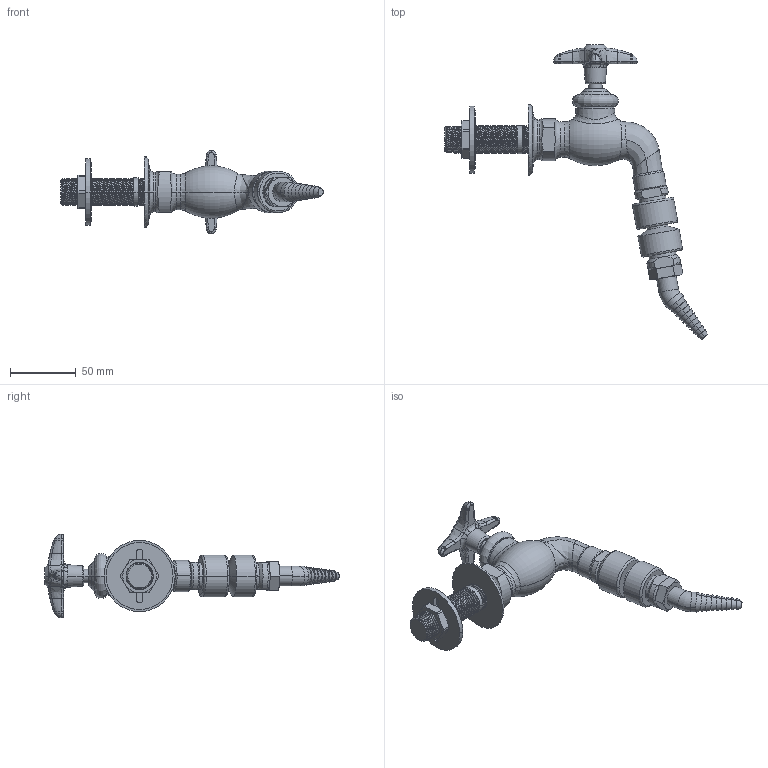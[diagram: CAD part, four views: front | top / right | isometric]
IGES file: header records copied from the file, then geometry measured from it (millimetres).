
Start section:  PTC IGES file: LWV4-A54.igs
Global section: file name: LWV4-A54.igs; native system: Creo Parametric by PTC Inc.; preprocessor: 2014500; author: usch_engrender; organization: Unknown; date: 20150915.131401; units: inch
Bounding box: 199.3 x 223.37 x 63.41 mm (x, y, z)
Volume: 196190.8 mm3; surface area: 43442.5 mm2
Topology: 1 solids, 3 shells, 473 faces, 1136 edges, 689 vertices
Faces by surface type: bspline 263, revolution 210
